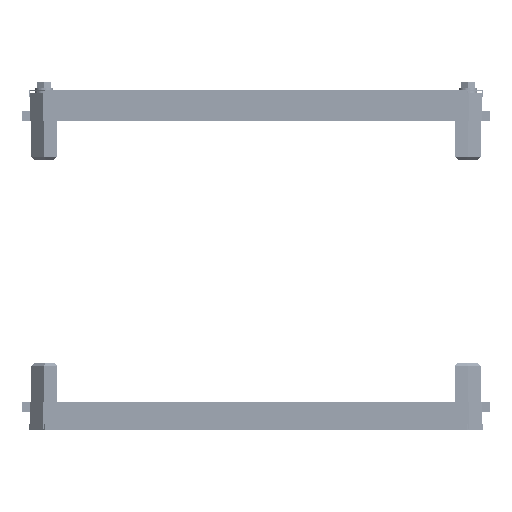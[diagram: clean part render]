
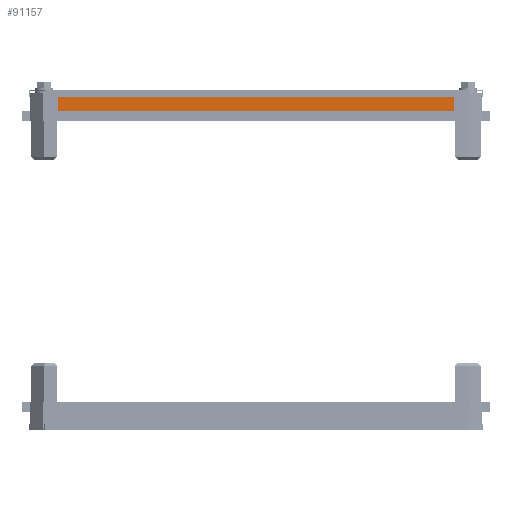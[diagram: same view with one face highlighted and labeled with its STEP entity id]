
A CAD part, left-side view. The second image highlights one B-rep face of the part: STEP entity #91157.
In plain terms, the highlighted planar face has unit normal (-1, 0, 0).
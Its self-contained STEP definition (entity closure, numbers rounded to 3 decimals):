
#8526 = DIRECTION ( 'NONE',  ( 0., 0., 1. ) ) ;
#9676 = ORIENTED_EDGE ( 'NONE', *, *, #92959, .F. ) ;
#10235 = AXIS2_PLACEMENT_3D ( 'NONE', #14223, #103462, #128983 ) ;
#13589 = VERTEX_POINT ( 'NONE', #51278 ) ;
#14223 = CARTESIAN_POINT ( 'NONE',  ( -589.55, 162.4, 409.7 ) ) ;
#16504 = ORIENTED_EDGE ( 'NONE', *, *, #95259, .F. ) ;
#18267 = LINE ( 'NONE', #70059, #26028 ) ;
#21144 = DIRECTION ( 'NONE',  ( 0., 1., 0. ) ) ;
#26028 = VECTOR ( 'NONE', #123603, 1000. ) ;
#51278 = CARTESIAN_POINT ( 'NONE',  ( -589.55, -345.6, 430.9 ) ) ;
#54058 = PLANE ( 'NONE',  #10235 ) ;
#60689 = VERTEX_POINT ( 'NONE', #160850 ) ;
#67721 = LINE ( 'NONE', #106872, #71265 ) ;
#70059 = CARTESIAN_POINT ( 'NONE',  ( -589.55, 162.4, 430.9 ) ) ;
#71265 = VECTOR ( 'NONE', #129041, 1000. ) ;
#71268 = VECTOR ( 'NONE', #8526, 1000. ) ;
#88087 = VERTEX_POINT ( 'NONE', #167757 ) ;
#91157 = ADVANCED_FACE ( 'NONE', ( #129765 ), #54058, .F. ) ;
#92959 = EDGE_CURVE ( 'NONE', #88087, #122467, #113718, .T. ) ;
#95259 = EDGE_CURVE ( 'NONE', #122467, #60689, #100283, .T. ) ;
#100283 = LINE ( 'NONE', #135967, #71268 ) ;
#103462 = DIRECTION ( 'NONE',  ( 1., 0., 0. ) ) ;
#106872 = CARTESIAN_POINT ( 'NONE',  ( -589.55, -345.6, 409.7 ) ) ;
#113718 = LINE ( 'NONE', #125665, #159479 ) ;
#114277 = ORIENTED_EDGE ( 'NONE', *, *, #159979, .F. ) ;
#118937 = EDGE_CURVE ( 'NONE', #88087, #13589, #67721, .T. ) ;
#122467 = VERTEX_POINT ( 'NONE', #167544 ) ;
#123603 = DIRECTION ( 'NONE',  ( 0., -1., 0. ) ) ;
#125665 = CARTESIAN_POINT ( 'NONE',  ( -589.55, 162.4, 408.4 ) ) ;
#128983 = DIRECTION ( 'NONE',  ( 0., -1., 0. ) ) ;
#129041 = DIRECTION ( 'NONE',  ( 0., 0., 1. ) ) ;
#129758 = ORIENTED_EDGE ( 'NONE', *, *, #118937, .T. ) ;
#129765 = FACE_OUTER_BOUND ( 'NONE', #167024, .T. ) ;
#135967 = CARTESIAN_POINT ( 'NONE',  ( -589.55, 162.4, 409.7 ) ) ;
#159479 = VECTOR ( 'NONE', #21144, 1000. ) ;
#159979 = EDGE_CURVE ( 'NONE', #60689, #13589, #18267, .T. ) ;
#160850 = CARTESIAN_POINT ( 'NONE',  ( -589.55, 162.4, 430.9 ) ) ;
#167024 = EDGE_LOOP ( 'NONE', ( #129758, #114277, #16504, #9676 ) ) ;
#167544 = CARTESIAN_POINT ( 'NONE',  ( -589.55, 162.4, 408.4 ) ) ;
#167757 = CARTESIAN_POINT ( 'NONE',  ( -589.55, -345.6, 408.4 ) ) ;
